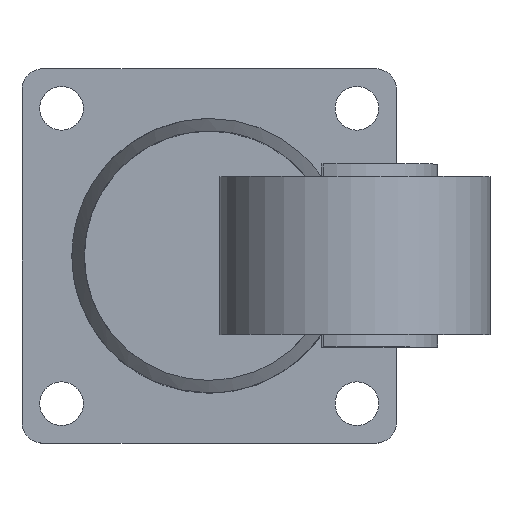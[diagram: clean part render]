
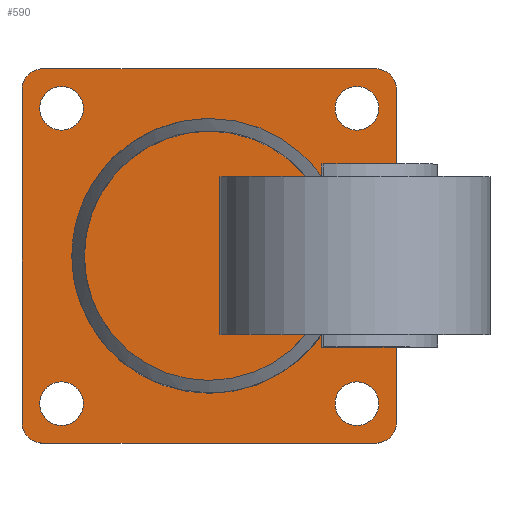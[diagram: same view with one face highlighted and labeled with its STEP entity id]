
A CAD part, top view. The second image highlights one B-rep face of the part: STEP entity #590.
In plain terms, the highlighted planar face has unit normal (0, 0, 1).
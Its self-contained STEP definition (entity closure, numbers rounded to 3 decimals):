
#88=CARTESIAN_POINT('',(-6.618,-75.026,3.));
#89=VERTEX_POINT('',#88);
#90=CARTESIAN_POINT('',(-11.618,-70.026,3.));
#91=VERTEX_POINT('',#90);
#92=CARTESIAN_POINT('',(-6.618,-70.026,3.));
#93=DIRECTION('',(0.0,0.0,-1.));
#94=DIRECTION('',(-0.707,-0.707,0.0));
#95=AXIS2_PLACEMENT_3D('',#92,#93,#94);
#96=CIRCLE('',#95,5.);
#97=EDGE_CURVE('',#89,#91,#96,.T.);
#139=CARTESIAN_POINT('',(73.382,-75.026,3.));
#140=VERTEX_POINT('',#139);
#147=CARTESIAN_POINT('',(73.382,-75.026,3.));
#148=DIRECTION('',(-1.0,0.0,0.0));
#149=VECTOR('',#148,80.0);
#150=LINE('',#147,#149);
#151=EDGE_CURVE('',#140,#89,#150,.T.);
#264=CARTESIAN_POINT('',(78.382,-70.026,3.));
#265=VERTEX_POINT('',#264);
#266=CARTESIAN_POINT('',(73.382,-70.026,3.));
#267=DIRECTION('',(0.0,0.0,-1.));
#268=DIRECTION('',(0.707,-0.707,0.0));
#269=AXIS2_PLACEMENT_3D('',#266,#267,#268);
#270=CIRCLE('',#269,5.);
#271=EDGE_CURVE('',#265,#140,#270,.T.);
#291=CARTESIAN_POINT('',(78.382,9.974,3.));
#292=VERTEX_POINT('',#291);
#299=CARTESIAN_POINT('',(78.382,9.974,3.));
#300=DIRECTION('',(0.0,-1.0,0.0));
#301=VECTOR('',#300,80.0);
#302=LINE('',#299,#301);
#303=EDGE_CURVE('',#292,#265,#302,.T.);
#313=CARTESIAN_POINT('',(73.382,14.974,3.));
#314=VERTEX_POINT('',#313);
#315=CARTESIAN_POINT('',(73.382,9.974,3.));
#316=DIRECTION('',(0.0,0.0,-1.));
#317=DIRECTION('',(0.707,0.707,0.0));
#318=AXIS2_PLACEMENT_3D('',#315,#316,#317);
#319=CIRCLE('',#318,5.);
#320=EDGE_CURVE('',#314,#292,#319,.T.);
#340=CARTESIAN_POINT('',(-6.618,14.974,3.));
#341=VERTEX_POINT('',#340);
#348=CARTESIAN_POINT('',(-6.618,14.974,3.));
#349=DIRECTION('',(1.0,0.0,0.0));
#350=VECTOR('',#349,80.0);
#351=LINE('',#348,#350);
#352=EDGE_CURVE('',#341,#314,#351,.T.);
#362=CARTESIAN_POINT('',(-11.618,9.974,3.));
#363=VERTEX_POINT('',#362);
#364=CARTESIAN_POINT('',(-6.618,9.974,3.));
#365=DIRECTION('',(0.0,0.0,-1.));
#366=DIRECTION('',(-0.707,0.707,0.0));
#367=AXIS2_PLACEMENT_3D('',#364,#365,#366);
#368=CIRCLE('',#367,5.);
#369=EDGE_CURVE('',#363,#341,#368,.T.);
#411=CARTESIAN_POINT('',(74.132,-65.526,3.));
#412=VERTEX_POINT('',#411);
#413=CARTESIAN_POINT('',(68.882,-65.526,3.));
#414=DIRECTION('',(0.0,0.0,-1.0));
#415=DIRECTION('',(1.0,0.0,0.0));
#416=AXIS2_PLACEMENT_3D('',#413,#414,#415);
#417=CIRCLE('',#416,5.25);
#418=EDGE_CURVE('',#412,#412,#417,.T.);
#452=CARTESIAN_POINT('',(3.132,5.474,3.));
#453=VERTEX_POINT('',#452);
#454=CARTESIAN_POINT('',(-2.118,5.474,3.));
#455=DIRECTION('',(0.0,0.0,-1.0));
#456=DIRECTION('',(1.0,0.0,0.0));
#457=AXIS2_PLACEMENT_3D('',#454,#455,#456);
#458=CIRCLE('',#457,5.25);
#459=EDGE_CURVE('',#453,#453,#458,.T.);
#493=CARTESIAN_POINT('',(74.132,5.474,3.));
#494=VERTEX_POINT('',#493);
#495=CARTESIAN_POINT('',(68.882,5.474,3.));
#496=DIRECTION('',(0.0,0.0,-1.0));
#497=DIRECTION('',(1.0,0.0,0.0));
#498=AXIS2_PLACEMENT_3D('',#495,#496,#497);
#499=CIRCLE('',#498,5.25);
#500=EDGE_CURVE('',#494,#494,#499,.T.);
#534=CARTESIAN_POINT('',(3.132,-65.526,3.));
#535=VERTEX_POINT('',#534);
#536=CARTESIAN_POINT('',(-2.118,-65.526,3.));
#537=DIRECTION('',(0.0,0.0,-1.0));
#538=DIRECTION('',(1.0,0.0,0.0));
#539=AXIS2_PLACEMENT_3D('',#536,#537,#538);
#540=CIRCLE('',#539,5.25);
#541=EDGE_CURVE('',#535,#535,#540,.T.);
#552=CARTESIAN_POINT('',(-11.618,-70.026,3.));
#553=DIRECTION('',(0.0,1.0,0.0));
#554=VECTOR('',#553,80.0);
#555=LINE('',#552,#554);
#556=EDGE_CURVE('',#91,#363,#555,.T.);
#563=CARTESIAN_POINT('',(33.382,-30.026,3.));
#564=DIRECTION('',(0.0,0.0,1.0));
#565=DIRECTION('',(1.0,0.0,0.0));
#566=AXIS2_PLACEMENT_3D('',#563,#564,#565);
#567=PLANE('',#566);
#568=ORIENTED_EDGE('',*,*,#97,.F.);
#569=ORIENTED_EDGE('',*,*,#151,.F.);
#570=ORIENTED_EDGE('',*,*,#271,.F.);
#571=ORIENTED_EDGE('',*,*,#303,.F.);
#572=ORIENTED_EDGE('',*,*,#320,.F.);
#573=ORIENTED_EDGE('',*,*,#352,.F.);
#574=ORIENTED_EDGE('',*,*,#369,.F.);
#575=ORIENTED_EDGE('',*,*,#556,.F.);
#576=EDGE_LOOP('',(#568,#569,#570,#571,#572,#573,#574,#575));
#577=FACE_OUTER_BOUND('',#576,.T.);
#578=ORIENTED_EDGE('',*,*,#418,.T.);
#579=EDGE_LOOP('',(#578));
#580=FACE_BOUND('',#579,.T.);
#581=ORIENTED_EDGE('',*,*,#459,.T.);
#582=EDGE_LOOP('',(#581));
#583=FACE_BOUND('',#582,.T.);
#584=ORIENTED_EDGE('',*,*,#500,.T.);
#585=EDGE_LOOP('',(#584));
#586=FACE_BOUND('',#585,.T.);
#587=ORIENTED_EDGE('',*,*,#541,.T.);
#588=EDGE_LOOP('',(#587));
#589=FACE_BOUND('',#588,.T.);
#590=ADVANCED_FACE('',(#577,#580,#583,#586,#589),#567,.T.);
